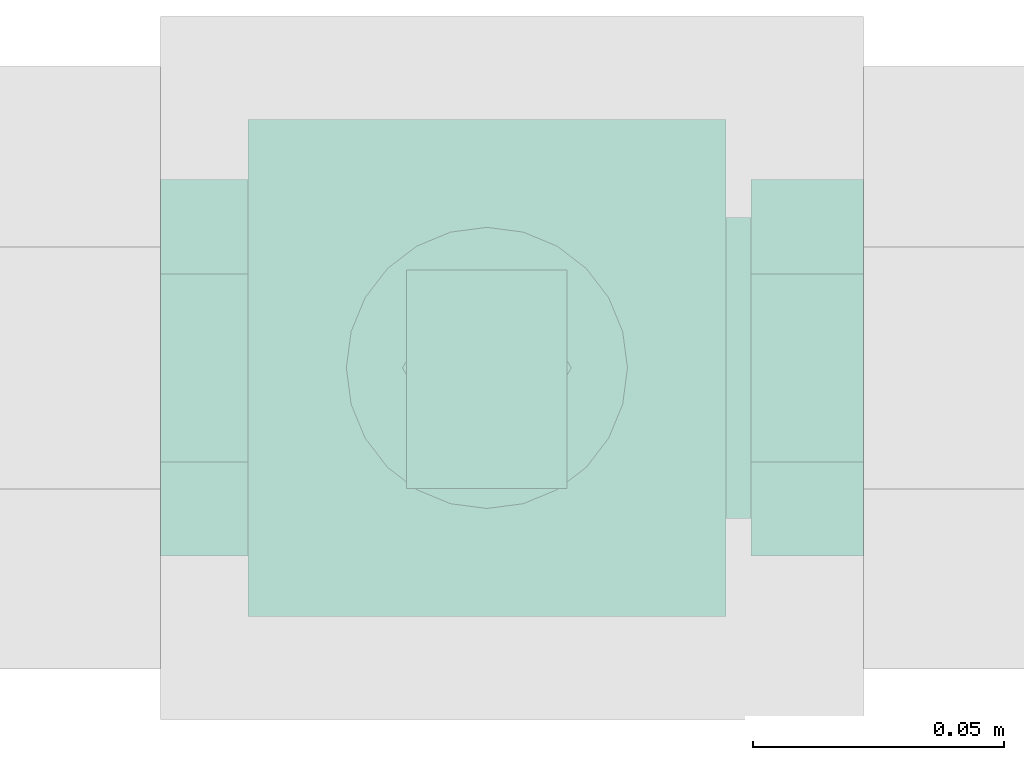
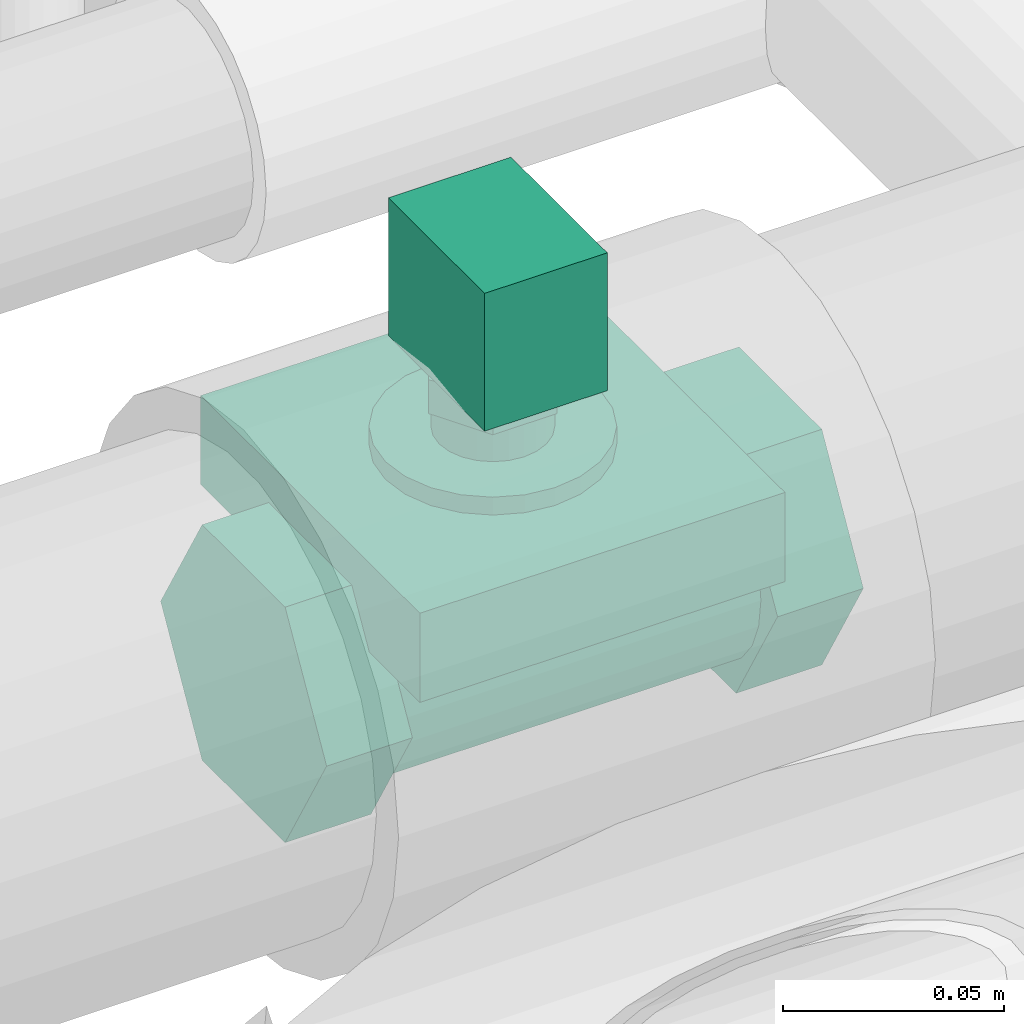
# One storey, part 75 of 83: 1 flow controller.
"""IFC2X3 building model written with IfcOpenShell, lengths in millimetres."""

from ifc_helpers import new_model, entity, si_unit, converted_unit, derived_unit, direction, frame, origin_with_axes, place, context, subcontext, project, spatial, open_shell, surface_model, source, transform, mapped, type_object, element, save


model = new_model("IFC2X3")

# Units and contexts
model_context = context("Model", 3, precision=0.01, world=frame((0.0, 4.29681676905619e-09, 0.0)), true_north=direction((4.01073788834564e-13, 1.0)))
plan_context = context("Plan", 3, precision=0.01, world=frame((0.0, 4.29681676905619e-09, 0.0)), true_north=direction((4.01073788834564e-13, 1.0)))
body_context = subcontext(model_context, "Body", "Model", "MODEL_VIEW")
ifc_project = project(units=[converted_unit("PLANEANGLEUNIT", "DEGREE", entity("IfcPositiveLengthMeasure", 0.0174532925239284), si_unit("PLANEANGLEUNIT", "RADIAN"), dimensions=[0, 0, 0, 0, 0, 0, 0]), si_unit("AREAUNIT", "SQUARE_METRE"), si_unit("LENGTHUNIT", "METRE", prefix="MILLI"), si_unit("MASSUNIT", "GRAM", prefix="KILO"), si_unit("POWERUNIT", "WATT"), si_unit("PRESSUREUNIT", "PASCAL"), si_unit("FORCEUNIT", "NEWTON", prefix="KILO"), si_unit("ELECTRICVOLTAGEUNIT", "VOLT"), si_unit("ELECTRICCURRENTUNIT", "AMPERE"), si_unit("THERMODYNAMICTEMPERATUREUNIT", "DEGREE_CELSIUS"), si_unit("TIMEUNIT", "SECOND"), si_unit("VOLUMEUNIT", "CUBIC_METRE"), derived_unit("LINEARVELOCITYUNIT", [(si_unit("LENGTHUNIT", "METRE"), 1), (si_unit("TIMEUNIT", "SECOND"), -1)]), derived_unit("VOLUMETRICFLOWRATEUNIT", [(si_unit("VOLUMEUNIT", "CUBIC_METRE"), 1), (si_unit("TIMEUNIT", "SECOND"), -1)]), derived_unit("THERMALTRANSMITTANCEUNIT", [(si_unit("POWERUNIT", "WATT"), 1), (si_unit("THERMODYNAMICTEMPERATUREUNIT", "KELVIN"), -1), (si_unit("AREAUNIT", "SQUARE_METRE"), -1)]), derived_unit("SOUNDPRESSUREUNIT", [(si_unit("PRESSUREUNIT", "PASCAL"), 1)])], contexts=[model_context, plan_context])

# Site, building, storey
site_placement = place(None, frame((0.0, -4.29681676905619e-09, 0.0), z_axis=(0.0, 0.0, 1.0), x_axis=(1.0, 0.0, 0.0)))
site = spatial("IfcSite", under=ifc_project, at=site_placement, Name="ENGM", CompositionType="ELEMENT")
building_placement = place(site_placement, frame((0.0, 4.29681676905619e-09, 0.0), z_axis=(0.0, 0.0, 1.0), x_axis=(1.0, 0.0, 0.0)))
building = spatial("IfcBuilding", under=site, at=building_placement, Name="TI", CompositionType="ELEMENT")
storey_placement = place(building_placement, frame((0.0, 0.0, 204000.0), z_axis=(0.0, 0.0, 1.0), x_axis=(1.0, 0.0, 0.0)))
storey = spatial("IfcBuildingStorey", under=building, at=storey_placement, Name="Nivå D", CompositionType="ELEMENT", Elevation=204000.0)

# Flow controller
valve_type = type_object("IfcValveType", Name="322G-3910-40", PredefinedType="NOTDEFINED")
shared_shape = source(origin_with_axes(), body_context, "Body", "SurfaceModel", [
    surface_model("IfcShellBasedSurfaceModel", [(3.4, -14.54923, 67.0), (11.8, 0.0, 67.0), (-13.4, 14.54923, 67.0), (3.4, 14.54923, 67.0), (-13.4, -14.54923, 67.0), (-21.8, 0.0, 67.0), (-21.8, 0.0, 57.625), (-13.4, 14.54923, 57.625), (-13.4, -14.54923, 57.625), (11.8, 0.0, 57.625), (3.4, -14.54923, 57.625), (3.4, 14.54923, 57.625), (-47.6, 18.75, -32.47595), (-47.6, 37.5, 0.0), (-47.6, -18.75, -32.47595), (-47.6, 18.75, 32.47595), (-47.6, -18.75, 32.47595), (-47.6, -37.5, 0.0), (-70.0, -37.5, 0.0), (-70.0, -18.75, 32.47595), (-70.0, -18.75, -32.47595), (-70.0, 18.75, -32.47595), (-70.0, 37.5, 0.0), (-70.0, 18.75, 32.47595), (70.0, 18.75, -32.47595), (70.0, 37.5, 0.0), (70.0, -18.75, -32.47595), (70.0, 18.75, 32.47595), (70.0, -18.75, 32.47595), (70.0, -37.5, 0.0), (47.6, -37.5, 0.0), (47.6, -18.75, 32.47595), (47.6, -18.75, -32.47595), (47.6, 18.75, -32.47595), (47.6, 37.5, 0.0), (47.6, 18.75, 32.47595), (-21.0, 19.5, 105.0), (-21.0, -24.0, 105.0), (11.0, 19.5, 105.0), (11.0, -24.0, 105.0), (11.0, 19.5, 67.0), (11.0, -24.0, 67.0), (-21.0, -24.0, 67.0), (-21.0, 19.5, 67.0), (-52.6, 49.5, 43.33333), (-52.6, -49.5, 43.33333), (42.6, 49.5, 43.33333), (42.6, -49.5, 43.33333), (42.6, 49.5, 33.5), (42.6, -49.5, 33.5), (-52.6, 49.5, 33.5), (-52.6, -49.5, 33.5), (42.6, 49.5, 18.75), (42.6, -49.5, 18.75), (-52.6, 49.5, 18.75), (-52.6, -49.5, 18.75), (-1.37653, -13.52296, 57.625), (2.0, -12.12436, 57.625), (4.89949, -9.89949, 57.625), (-18.52296, -3.62347, 57.625), (8.52296, -3.62347, 57.625), (7.12436, -7.0, 57.625), (8.52296, 3.62347, 57.625), (-5.0, -14.0, 57.625), (-12.0, -12.12436, 57.625), (-8.62347, -13.52296, 57.625), (-14.89949, -9.89949, 57.625), (-17.12436, -7.0, 57.625), (9.0, 0.0, 57.625), (7.12436, 7.0, 57.625), (4.89949, 9.89949, 57.625), (2.0, 12.12436, 57.625), (-1.37653, 13.52296, 57.625), (-5.0, 14.0, 57.625), (-8.62347, 13.52296, 57.625), (-18.52296, 3.62347, 57.625), (-19.0, 0.0, 57.625), (-17.12436, 7.0, 57.625), (-14.89949, 9.89949, 57.625), (-12.0, 12.12436, 57.625), (-5.0, 14.0, 48.25), (-1.37653, 13.52296, 48.25), (2.0, 12.12436, 48.25), (-8.62347, 13.52296, 48.25), (4.89949, 9.89949, 48.25), (7.12436, 7.0, 48.25), (8.52296, 3.62347, 48.25), (-14.89949, 9.89949, 48.25), (-12.0, 12.12436, 48.25), (-17.12436, 7.0, 48.25), (-18.52296, -3.62347, 48.25), (-18.52296, 3.62347, 48.25), (-19.0, 0.0, 48.25), (8.52296, -3.62347, 48.25), (4.89949, -9.89949, 48.25), (7.12436, -7.0, 48.25), (2.0, -12.12436, 48.25), (-1.37653, -13.52296, 48.25), (-14.89949, -9.89949, 48.25), (-17.12436, -7.0, 48.25), (-12.0, -12.12436, 48.25), (-5.0, -14.0, 48.25), (-8.62347, -13.52296, 48.25), (9.0, 0.0, 48.25), (2.24693, -27.04592, 48.25), (9.0, -24.24871, 48.25), (14.79899, -19.79899, 48.25), (22.04592, -7.24693, 48.25), (-32.04592, -7.24693, 48.25), (19.24871, -14.0, 48.25), (22.04592, 7.24693, 48.25), (-5.0, -28.0, 48.25), (-19.0, -24.24871, 48.25), (-12.24693, -27.04592, 48.25), (-24.79899, -19.79899, 48.25), (-29.24871, -14.0, 48.25), (23.0, 0.0, 48.25), (19.24871, 14.0, 48.25), (14.79899, 19.79899, 48.25), (9.0, 24.24871, 48.25), (2.24693, 27.04592, 48.25), (-5.0, 28.0, 48.25), (-12.24693, 27.04592, 48.25), (-32.04592, 7.24693, 48.25), (-33.0, 0.0, 48.25), (-29.24871, 14.0, 48.25), (-24.79899, 19.79899, 48.25), (-19.0, 24.24871, 48.25), (-5.0, 28.0, 43.33333), (2.24693, 27.04592, 43.33333), (9.0, 24.24871, 43.33333), (22.04592, -7.24693, 43.33333), (-12.24693, 27.04592, 43.33333), (14.79899, 19.79899, 43.33333), (19.24871, 14.0, 43.33333), (22.04592, 7.24693, 43.33333), (23.0, 0.0, 43.33333), (-24.79899, 19.79899, 43.33333), (-19.0, 24.24871, 43.33333), (-29.24871, 14.0, 43.33333), (-32.04592, -7.24693, 43.33333), (-32.04592, 7.24693, 43.33333), (-33.0, 0.0, 43.33333), (14.79899, -19.79899, 43.33333), (19.24871, -14.0, 43.33333), (9.0, -24.24871, 43.33333), (2.24693, -27.04592, 43.33333), (-24.79899, -19.79899, 43.33333), (-29.24871, -14.0, 43.33333), (-19.0, -24.24871, 43.33333), (-5.0, -28.0, 43.33333), (-12.24693, -27.04592, 43.33333), (47.6, 28.97778, -7.76457), (47.6, 7.76457, -28.97778), (47.6, 15.0, -25.98076), (47.6, 21.2132, -21.2132), (47.6, -21.2132, -21.2132), (47.6, 25.98076, -15.0), (47.6, 21.2132, 21.2132), (47.6, 0.0, -30.0), (47.6, -15.0, -25.98076), (47.6, -7.76457, -28.97778), (47.6, -28.97778, -7.76457), (47.6, -25.98076, -15.0), (47.6, -28.97778, 7.76457), (47.6, 30.0, 0.0), (47.6, 25.98076, 15.0), (47.6, -25.98076, 15.0), (47.6, 7.76457, 28.97778), (47.6, 0.0, 30.0), (47.6, 15.0, 25.98076), (47.6, -30.0, 0.0), (47.6, -21.2132, 21.2132), (47.6, -7.76457, 28.97778), (47.6, -15.0, 25.98076), (47.6, 28.97778, 7.76457), (-47.6, 7.76457, 28.97778), (-47.6, -25.98076, 15.0), (-47.6, 0.0, 30.0), (-47.6, 21.2132, 21.2132), (-47.6, 15.0, 25.98076), (-47.6, 25.98076, 15.0), (-47.6, 28.97778, 7.76457), (-47.6, -7.76457, 28.97778), (-47.6, -21.2132, 21.2132), (-47.6, -15.0, 25.98076), (-47.6, -28.97778, 7.76457), (-47.6, -28.97778, -7.76457), (-47.6, -30.0, 0.0), (-47.6, 30.0, 0.0), (-47.6, 28.97778, -7.76457), (-47.6, -21.2132, -21.2132), (-47.6, 7.76457, -28.97778), (-47.6, 25.98076, -15.0), (-47.6, 21.2132, -21.2132), (-47.6, 15.0, -25.98076), (-47.6, -25.98076, -15.0), (-47.6, -15.0, -25.98076), (-47.6, 0.0, -30.0), (-47.6, -7.76457, -28.97778)], [open_shell([[[0, 1, 2]], [[2, 1, 3]], [[4, 2, 5]], [[2, 4, 0]], [[6, 7, 8]], [[8, 7, 9]], [[9, 10, 8]], [[9, 7, 11]], [[2, 3, 11]], [[11, 7, 2]], [[5, 2, 6]], [[7, 6, 2]], [[4, 5, 6]], [[6, 8, 4]], [[0, 4, 10]], [[8, 10, 4]], [[1, 0, 10]], [[10, 9, 1]], [[3, 1, 11]], [[9, 11, 1]], [[12, 13, 14]], [[14, 13, 15]], [[14, 16, 17]], [[16, 14, 15]], [[18, 19, 20]], [[20, 19, 21]], [[22, 21, 19]], [[22, 19, 23]], [[16, 15, 23]], [[23, 19, 16]], [[17, 16, 19]], [[19, 18, 17]], [[14, 17, 20]], [[18, 20, 17]], [[12, 14, 20]], [[20, 21, 12]], [[13, 12, 21]], [[21, 22, 13]], [[15, 13, 22]], [[22, 23, 15]], [[24, 25, 26]], [[26, 25, 27]], [[26, 28, 29]], [[28, 26, 27]], [[30, 31, 32]], [[32, 31, 33]], [[34, 33, 31]], [[34, 31, 35]], [[28, 27, 35]], [[35, 31, 28]], [[29, 28, 31]], [[31, 30, 29]], [[26, 29, 32]], [[30, 32, 29]], [[24, 26, 32]], [[32, 33, 24]], [[25, 24, 33]], [[33, 34, 25]], [[27, 25, 34]], [[34, 35, 27]], [[36, 37, 38]], [[39, 38, 37]], [[40, 41, 42]], [[42, 43, 40]], [[39, 37, 42]], [[42, 41, 39]], [[38, 39, 41]], [[41, 40, 38]], [[36, 38, 40]], [[40, 43, 36]], [[37, 36, 43]], [[43, 42, 37]], [[44, 45, 46]], [[47, 46, 45]], [[48, 49, 50]], [[51, 50, 49]], [[47, 45, 51]], [[51, 49, 47]], [[46, 47, 49]], [[49, 48, 46]], [[44, 46, 48]], [[48, 50, 44]], [[45, 44, 50]], [[50, 51, 45]], [[50, 51, 48]], [[49, 48, 51]], [[52, 53, 54]], [[55, 54, 53]], [[49, 51, 55]], [[55, 53, 49]], [[48, 49, 53]], [[53, 52, 48]], [[50, 48, 52]], [[52, 54, 50]], [[51, 50, 54]], [[54, 55, 51]], [[56, 57, 58]], [[59, 56, 58]], [[59, 58, 60]], [[60, 58, 61]], [[62, 59, 60]], [[63, 64, 65]], [[63, 56, 64]], [[66, 59, 67]], [[59, 66, 64]], [[56, 59, 64]], [[60, 68, 62]], [[62, 69, 70]], [[62, 70, 71]], [[71, 72, 73]], [[71, 73, 62]], [[62, 73, 74]], [[59, 75, 76]], [[77, 75, 59]], [[78, 74, 79]], [[74, 78, 77]], [[74, 77, 59]], [[59, 62, 74]], [[80, 81, 82]], [[83, 80, 82]], [[84, 85, 86]], [[84, 86, 82]], [[83, 82, 86]], [[83, 87, 88]], [[87, 83, 89]], [[89, 90, 91]], [[92, 91, 90]], [[83, 90, 89]], [[83, 86, 93]], [[90, 83, 93]], [[94, 93, 95]], [[94, 96, 97]], [[93, 94, 90]], [[97, 90, 94]], [[90, 98, 99]], [[98, 90, 100]], [[100, 101, 102]], [[100, 90, 97]], [[97, 101, 100]], [[93, 86, 103]], [[90, 59, 92]], [[99, 67, 90]], [[64, 98, 100]], [[99, 98, 66]], [[65, 100, 102]], [[90, 67, 59]], [[59, 76, 92]], [[65, 64, 100]], [[66, 98, 64]], [[66, 67, 99]], [[63, 65, 102]], [[102, 101, 63]], [[97, 56, 101]], [[96, 57, 97]], [[61, 94, 95]], [[96, 94, 58]], [[60, 95, 93]], [[96, 58, 57]], [[57, 56, 97]], [[68, 60, 93]], [[61, 95, 60]], [[61, 58, 94]], [[103, 68, 93]], [[101, 56, 63]], [[86, 62, 103]], [[85, 69, 86]], [[71, 84, 82]], [[85, 84, 70]], [[72, 82, 81]], [[86, 69, 62]], [[62, 68, 103]], [[72, 71, 82]], [[70, 84, 71]], [[70, 69, 85]], [[73, 72, 81]], [[81, 80, 73]], [[83, 74, 80]], [[88, 79, 83]], [[77, 87, 89]], [[88, 87, 78]], [[75, 89, 91]], [[88, 78, 79]], [[79, 74, 83]], [[76, 75, 91]], [[77, 89, 75]], [[77, 78, 87]], [[92, 76, 91]], [[80, 74, 73]], [[104, 105, 106]], [[104, 106, 107]], [[104, 107, 108]], [[107, 106, 109]], [[110, 108, 107]], [[111, 112, 113]], [[111, 104, 112]], [[114, 108, 115]], [[108, 114, 112]], [[104, 108, 112]], [[107, 116, 110]], [[110, 117, 118]], [[110, 118, 119]], [[119, 120, 121]], [[121, 108, 119]], [[108, 121, 122]], [[108, 123, 124]], [[125, 123, 108]], [[126, 122, 127]], [[122, 126, 125]], [[122, 125, 108]], [[110, 119, 108]], [[128, 129, 130]], [[128, 131, 132]], [[133, 134, 135]], [[133, 135, 130]], [[130, 136, 128]], [[132, 137, 138]], [[137, 132, 139]], [[139, 140, 141]], [[142, 141, 140]], [[132, 140, 139]], [[130, 135, 136]], [[140, 132, 131]], [[143, 131, 144]], [[143, 145, 146]], [[143, 146, 131]], [[140, 131, 146]], [[140, 147, 148]], [[147, 140, 149]], [[149, 150, 151]], [[149, 140, 146]], [[146, 150, 149]], [[131, 128, 136]], [[140, 108, 142]], [[148, 115, 140]], [[112, 147, 149]], [[148, 147, 114]], [[113, 149, 151]], [[140, 115, 108]], [[108, 124, 142]], [[113, 112, 149]], [[114, 147, 112]], [[114, 115, 148]], [[111, 113, 151]], [[151, 150, 111]], [[146, 104, 150]], [[145, 105, 146]], [[109, 143, 144]], [[145, 143, 106]], [[107, 144, 131]], [[145, 106, 105]], [[105, 104, 146]], [[116, 107, 131]], [[109, 144, 107]], [[109, 106, 143]], [[136, 116, 131]], [[150, 104, 111]], [[135, 110, 136]], [[134, 117, 135]], [[119, 133, 130]], [[134, 133, 118]], [[120, 130, 129]], [[135, 117, 110]], [[110, 116, 136]], [[120, 119, 130]], [[118, 133, 119]], [[118, 117, 134]], [[121, 120, 129]], [[129, 128, 121]], [[132, 122, 128]], [[138, 127, 132]], [[125, 137, 139]], [[138, 137, 126]], [[123, 139, 141]], [[138, 126, 127]], [[127, 122, 132]], [[124, 123, 141]], [[125, 139, 123]], [[125, 126, 137]], [[142, 124, 141]], [[128, 122, 121]], [[152, 153, 154]], [[152, 154, 155]], [[153, 152, 156]], [[152, 155, 157]], [[158, 156, 152]], [[159, 160, 161]], [[160, 159, 156]], [[156, 162, 163]], [[156, 159, 153]], [[156, 164, 162]], [[158, 152, 165]], [[166, 158, 165]], [[158, 167, 156]], [[168, 169, 158]], [[168, 158, 170]], [[167, 158, 169]], [[167, 164, 156]], [[171, 162, 164]], [[172, 173, 174]], [[173, 172, 167]], [[173, 167, 169]], [[175, 166, 165]], [[176, 177, 178]], [[179, 176, 180]], [[179, 181, 182]], [[176, 179, 177]], [[182, 177, 179]], [[183, 184, 185]], [[184, 183, 177]], [[178, 177, 183]], [[182, 186, 177]], [[186, 187, 188]], [[186, 182, 189]], [[190, 191, 189]], [[192, 190, 193]], [[194, 195, 192]], [[194, 192, 193]], [[191, 190, 192]], [[187, 191, 196]], [[187, 189, 191]], [[197, 198, 199]], [[198, 197, 191]], [[192, 198, 191]], [[189, 187, 186]], [[162, 187, 196]], [[191, 163, 196]], [[160, 197, 199]], [[191, 197, 156]], [[161, 199, 198]], [[187, 171, 188]], [[187, 162, 171]], [[196, 163, 162]], [[191, 156, 163]], [[160, 156, 197]], [[199, 161, 160]], [[198, 159, 161]], [[153, 192, 195]], [[194, 154, 195]], [[157, 193, 190]], [[194, 193, 155]], [[152, 190, 189]], [[192, 153, 159]], [[195, 154, 153]], [[194, 155, 154]], [[193, 157, 155]], [[152, 157, 190]], [[189, 165, 152]], [[192, 159, 198]], [[189, 182, 175]], [[170, 180, 176]], [[180, 158, 179]], [[168, 176, 178]], [[182, 166, 175]], [[175, 165, 189]], [[181, 158, 166]], [[181, 179, 158]], [[158, 180, 170]], [[176, 168, 170]], [[181, 166, 182]], [[178, 169, 168]], [[173, 183, 185]], [[184, 174, 185]], [[167, 177, 186]], [[184, 177, 172]], [[164, 186, 188]], [[183, 173, 169]], [[185, 174, 173]], [[184, 172, 174]], [[177, 167, 172]], [[164, 167, 186]], [[188, 171, 164]], [[183, 169, 178]]])]),
])
flow_controller_placement = place(storey_placement, frame((609447.73353, 698092.0, 5915.24411), z_axis=(0.0, 0.0, 1.0), x_axis=(1.0, 0.0, 0.0)))
element("IfcFlowController", 1, at=flow_controller_placement, inside=storey, type_object=valve_type, Name="322G-3910-40", context=body_context, shape_type="MappedRepresentation", body=[
    mapped(shared_shape, transform((0.0, 0.0, 0.0), scale=1.0)),
])

save(model, "model.ifc")
